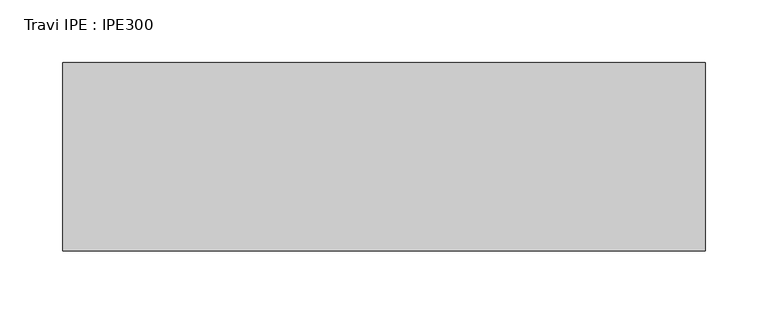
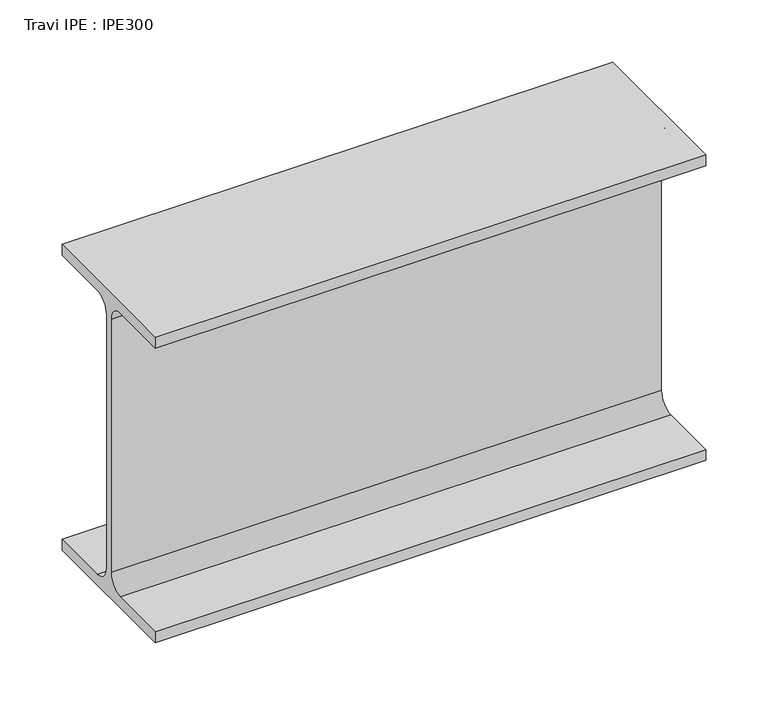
"""IFC4 building model written with IfcOpenShell, lengths in millimetres: beam geometry, Travi IPE : IPE300."""

from ifc_helpers import new_model, si_unit, point, frame, frame_2d, origin, place, context, project, spatial, polyline, circle_curve, trimmed, segment, composite_curve, outline, extrude, source, transform, mapped, element, save


def travi_ipe_ipe300_1f319769(model_context):
    return source(origin(), model_context, "Body", "SweptSolid", [
        extrude(outline(composite_curve([segment(polyline([(75.0, -139.3), (75.0, -150.0), (-75.0, -150.0), (-75.0, -139.3), (-18.55, -139.3)]), True, "CONTINUOUS"), segment(trimmed(circle_curve(frame_2d((-18.55, -124.3)), 15.0), [point((-18.55, -139.3))], [point((-3.55, -124.3))], True, "CARTESIAN"), True, "CONTINUOUS"), segment(polyline([(-3.55, -124.3), (-3.55, 124.3)]), True, "CONTINUOUS"), segment(trimmed(circle_curve(frame_2d((-18.55, 124.3)), 15.0), [point((-3.55, 124.3))], [point((-18.55, 139.3))], True, "CARTESIAN"), True, "CONTINUOUS"), segment(polyline([(-18.55, 139.3), (-75.0, 139.3), (-75.0, 150.0), (75.0, 150.0), (75.0, 139.3), (18.55, 139.3)]), True, "CONTINUOUS"), segment(trimmed(circle_curve(frame_2d((18.55, 124.3)), 15.0), [point((18.55, 139.3))], [point((3.55, 124.3))], True, "CARTESIAN"), True, "CONTINUOUS"), segment(polyline([(3.55, 124.3), (3.55, -124.3)]), True, "CONTINUOUS"), segment(trimmed(circle_curve(frame_2d((18.55, -124.3)), 15.0), [point((3.55, -124.3))], [point((18.55, -139.3))], True, "CARTESIAN"), True, "CONTINUOUS"), segment(polyline([(18.55, -139.3), (75.0, -139.3)]), True, "CONTINUOUS")], self_intersect=False)), frame((-252.0, 0.0, 0.0), z_axis=(1.0, 0.0, 0.0), x_axis=(0.0, 1.0, 0.0)), (0.0, 0.0, 1.0), 511.0),
    ])


if __name__ == "__main__":
    model = new_model("IFC4")
    model_context = context("Model", 3, world=origin())
    ifc_project = project(units=[si_unit("LENGTHUNIT", "METRE", prefix="MILLI")], contexts=[model_context])
    site = spatial("IfcSite", under=ifc_project)
    building = spatial("IfcBuilding", under=site)
    placement = place(None, origin())
    travi_ipe_ipe300_shape = travi_ipe_ipe300_1f319769(model_context)
    element("IfcBeam", 1, ObjectType="Travi IPE : IPE300", at=placement, inside=building, context=model_context, shape_type="MappedRepresentation", body=[
        mapped(travi_ipe_ipe300_shape, transform((0.0, 0.0, 0.0), x_axis=(1.0, 0.0, 0.0), y_axis=(0.0, 1.0, 0.0), z_axis=(0.0, 0.0, 1.0))),
    ])
    save(model, "model.ifc")
